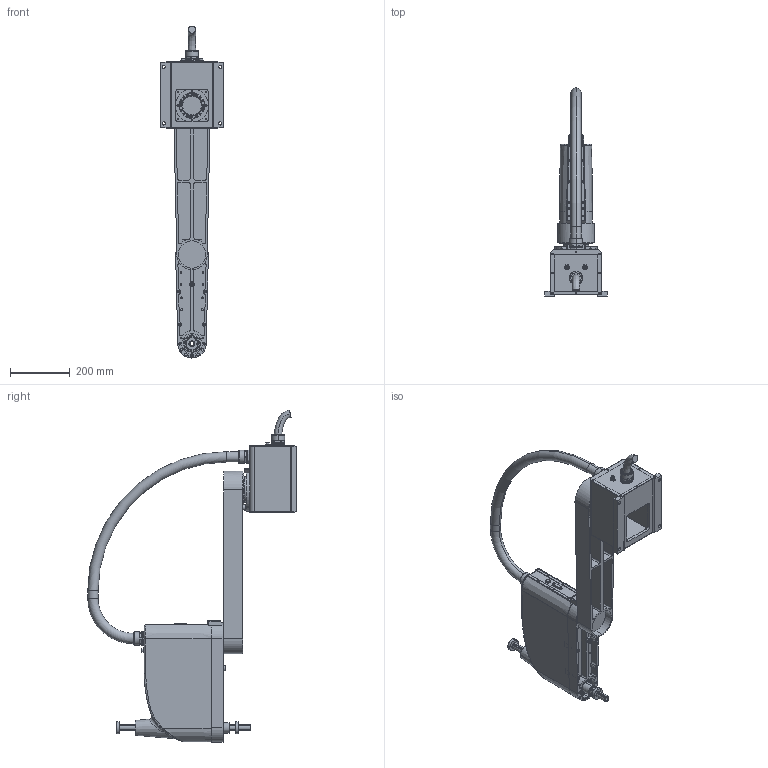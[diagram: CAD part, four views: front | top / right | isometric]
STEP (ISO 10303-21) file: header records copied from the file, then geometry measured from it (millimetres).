
FILE_DESCRIPTION (( 'STEP AP203' ), '1' );
FILE_NAME ('AR8520.STEP', '2019-06-20T02:49:42', ( '微软用户' ), ( '微软中国' ), 'SwSTEP 2.0', 'SolidWorks 2018', '' );
FILE_SCHEMA (( 'CONFIG_CONTROL_DESIGN' ));
Length unit declared in the file: millimetre
Products named in the file (6): AR6-7-8520-Y旋; AR6-7-8520-佪話; AR8520-援盄奪; AR8520; AR6-7-8520-菁釱; AR8520-X旋
Assembly tree (5 placements, depth 2):
  AR8520
    AR6-7-8520-菁釱
    AR8520-X旋
    AR6-7-8520-Y旋
    AR6-7-8520-佪話
    AR8520-援盄奪
Bounding box: 210 x 700 x 1114.72 mm (x, y, z)
Surface area: 1480729.2 mm2 (no closed solid volume)
Topology: 0 solids, 54 shells, 1200 faces, 3677 edges, 2534 vertices
Faces by surface type: cylinder 675, plane 377, cone 100, bspline 24, torus 24
Entity records: 55020 total; most frequent: CARTESIAN_POINT 20775, DIRECTION 7412, ORIENTED_EDGE 6170, EDGE_CURVE 3674, AXIS2_PLACEMENT_3D 2846, VERTEX_POINT 2534, VECTOR 1720, LINE 1720
